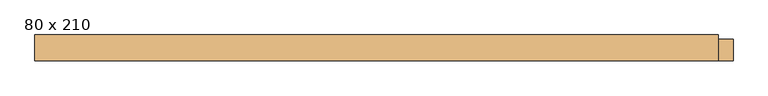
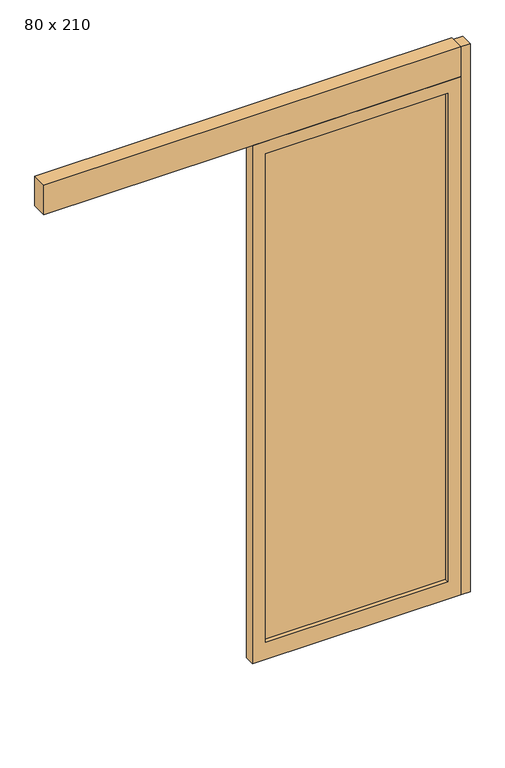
"""IFC4 building model written with IfcOpenShell, lengths in millimetres: door geometry, PORTA DE VIDRO COM ESQUADRIA DE CORRER EM TRILHO LATERAL - 1 FOLHA : 80 x 210."""

from ifc_helpers import new_model, si_unit, frame, origin, origin_with_axes, place, context, project, spatial, polyline, outline, extrude, source, transform, mapped, element, save


def door_80_x_210_166cd71a(model_context):
    return source(origin(), model_context, "Body", "SweptSolid", [
        extrude(outline(polyline([(407.9562626, 92.0), (-292.0437374, 92.0), (-292.0437374, 98.0), (407.9562626, 98.0), (407.9562626, 92.0)])), frame((0.0, 0.0, 70.0), z_axis=(0.0, 0.0, 1.0), x_axis=(1.0, 0.0, 0.0)), (0.0, 0.0, 1.0), 1980.0),
        extrude(outline(polyline([(2100.0, 457.9562626), (2100.0, -342.0437374), (0.0, -342.0437374), (0.0, 457.9562626), (2100.0, 457.9562626)]), holes=[polyline([(2050.0, 407.9562626), (70.0, 407.9562626), (70.0, -292.0437374), (2050.0, -292.0437374), (2050.0, 407.9562626)])]), frame((0.0, 75.0, 0.0), z_axis=(0.0, 1.0, 0.0), x_axis=(0.0, 0.0, 1.0)), (0.0, 0.0, 1.0), 40.0),
        extrude(outline(polyline([(457.9562626, 135.0), (457.9562626, 75.0), (-1142.0437374, 75.0), (-1142.0437374, 135.0), (457.9562626, 135.0)])), frame((0.0, 0.0, 2100.0), z_axis=(0.0, 0.0, 1.0), x_axis=(1.0, 0.0, 0.0)), (0.0, 0.0, 1.0), 120.0),
        extrude(outline(polyline([(457.9562626, 125.0), (492.9562626, 125.0), (492.9562626, 75.0), (457.9562626, 75.0), (457.9562626, 125.0)])), origin_with_axes(), (0.0, 0.0, 1.0), 2220.0),
    ])


if __name__ == "__main__":
    model = new_model("IFC4")
    model_context = context("Model", 3, world=origin())
    ifc_project = project(units=[si_unit("LENGTHUNIT", "METRE", prefix="MILLI")], contexts=[model_context])
    site = spatial("IfcSite", under=ifc_project)
    building = spatial("IfcBuilding", under=site)
    placement = place(None, origin())
    door_80_x_210_shape = door_80_x_210_166cd71a(model_context)
    element("IfcDoor", 1, ObjectType="PORTA DE VIDRO COM ESQUADRIA DE CORRER EM TRILHO LATERAL - 1 FOLHA : 80 x 210", at=placement, inside=building, context=model_context, shape_type="MappedRepresentation", body=[
        mapped(door_80_x_210_shape, transform((0.0, 0.0, 0.0), x_axis=(1.0, 0.0, 0.0), y_axis=(0.0, 1.0, 0.0), z_axis=(0.0, 0.0, 1.0))),
    ])
    save(model, "model.ifc")
